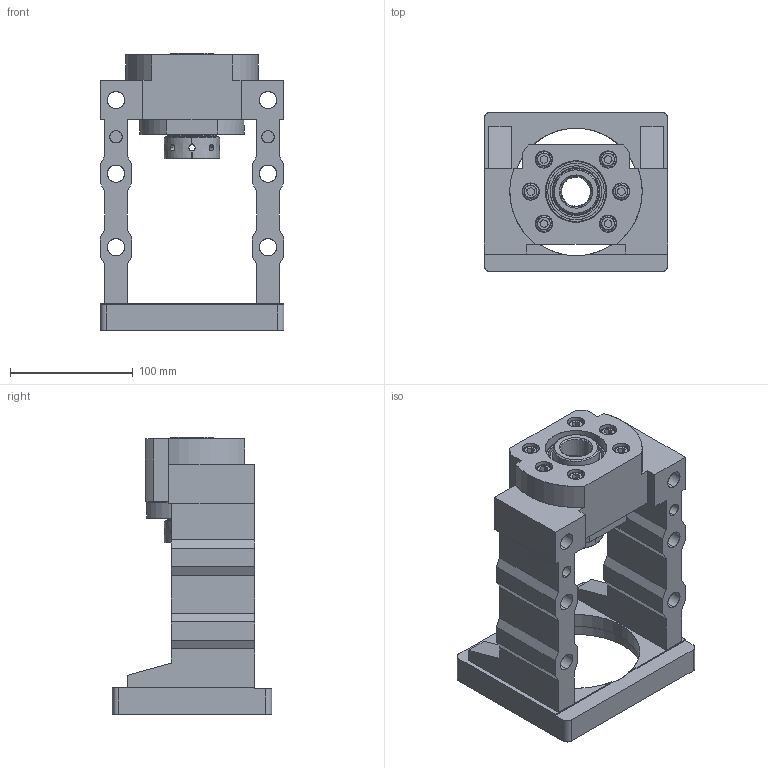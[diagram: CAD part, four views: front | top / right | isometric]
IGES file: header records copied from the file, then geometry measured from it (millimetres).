
Start section: SolidWorks IGES file using analytic representation for surfaces
Bounding box: 150 x 130 x 226 mm (x, y, z)
Surface area: 192207.1 mm2 (no closed solid volume)
Topology: 0 solids, 0 shells, 354 faces, 5992 edges, 5984 vertices
Faces by surface type: revolution 192, bspline 162
